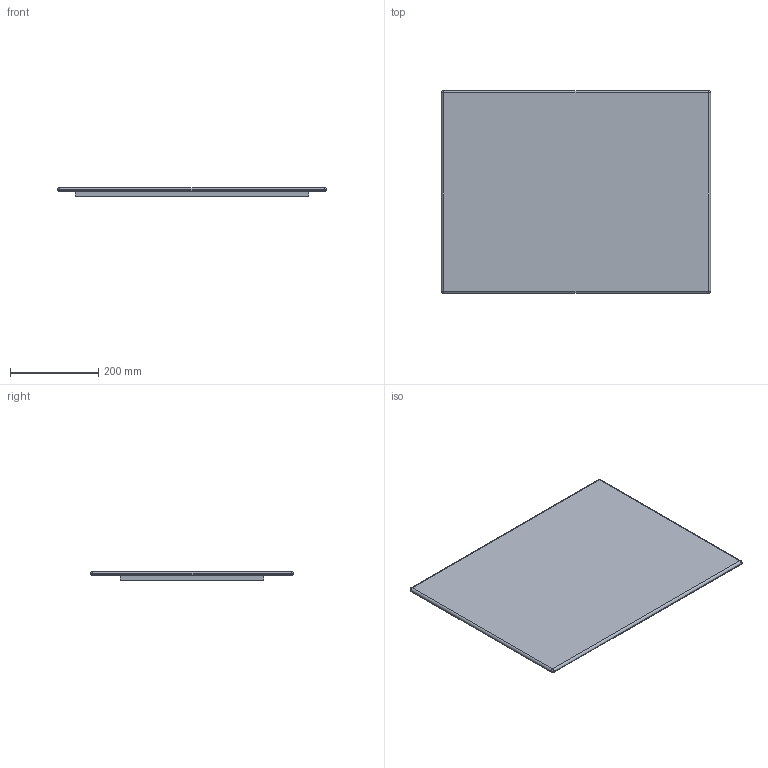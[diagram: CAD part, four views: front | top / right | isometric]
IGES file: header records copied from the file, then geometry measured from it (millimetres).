
Start section: START RECORD GO HERE.
Global section: file name: 3D ART 2056.igs; native system: DASSAULT SYSTEMES CATIA V5 R19 - www.3ds.com; preprocessor: CATIA Version 5 Release 19 SP 5 ; author: Luca; organization: DESKTOP-V7SON24; date: 20191030.174916; units: millimetre
Bounding box: 610 x 460 x 20 mm (x, y, z)
Surface area: 592615.8 mm2 (no closed solid volume)
Topology: 0 solids, 0 shells, 36 faces, 156 edges, 152 vertices
Faces by surface type: revolution 20, plane 16
